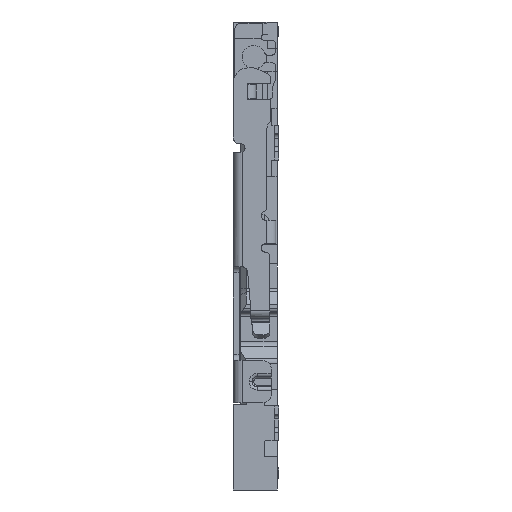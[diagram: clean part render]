
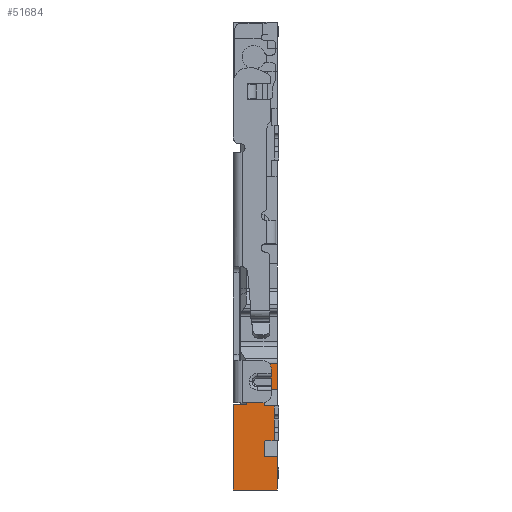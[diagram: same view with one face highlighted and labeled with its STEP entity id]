
A CAD part, left-side view. The second image highlights one B-rep face of the part: STEP entity #51684.
In plain terms, the highlighted planar face has unit normal (-1, 0, 0).
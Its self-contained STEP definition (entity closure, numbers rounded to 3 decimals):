
#44937=DIRECTION('',(0.,0.,-1.));
#44938=VECTOR('',#44937,0.913);
#44939=CARTESIAN_POINT('',(-19.907,-0.05,-8.558));
#44940=LINE('',#44939,#44938);
#45115=DIRECTION('',(0.,0.,-1.));
#45116=VECTOR('',#45115,1.128);
#45117=CARTESIAN_POINT('',(-19.907,-0.05,-11.771));
#45118=LINE('',#45117,#45116);
#45555=DIRECTION('',(0.,-1.,0.));
#45556=VECTOR('',#45555,0.45);
#45557=CARTESIAN_POINT('',(-19.907,0.4,-9.471));
#45558=LINE('',#45557,#45556);
#45559=CARTESIAN_POINT('',(-19.907,0.35,-9.971));
#45560=DIRECTION('',(1.,0.,0.));
#45561=DIRECTION('',(0.,0.,-1.));
#45562=AXIS2_PLACEMENT_3D('',#45559,#45560,#45561);
#45564=DIRECTION('',(0.,1.,0.));
#45565=VECTOR('',#45564,0.3);
#45566=CARTESIAN_POINT('',(-19.907,0.05,-10.021));
#45567=LINE('',#45566,#45565);
#45568=DIRECTION('',(0.,0.,1.));
#45569=VECTOR('',#45568,1.2);
#45570=CARTESIAN_POINT('',(-19.907,0.05,-11.221));
#45571=LINE('',#45570,#45569);
#45572=CARTESIAN_POINT('',(-19.907,0.35,-11.271));
#45573=DIRECTION('',(1.,0.,0.));
#45574=DIRECTION('',(0.,1.,0.));
#45575=AXIS2_PLACEMENT_3D('',#45572,#45573,#45574);
#45577=DIRECTION('',(0.,1.,0.));
#45578=VECTOR('',#45577,0.45);
#45579=CARTESIAN_POINT('',(-19.907,-0.05,-11.771));
#45580=LINE('',#45579,#45578);
#45581=DIRECTION('',(0.,-1.,0.));
#45582=VECTOR('',#45581,1.5);
#45583=CARTESIAN_POINT('',(-19.907,1.45,-12.899));
#45584=LINE('',#45583,#45582);
#45585=DIRECTION('',(0.,0.,-1.));
#45586=VECTOR('',#45585,2.928);
#45587=CARTESIAN_POINT('',(-19.907,1.45,-9.971));
#45588=LINE('',#45587,#45586);
#45589=DIRECTION('',(0.,1.,0.));
#45590=VECTOR('',#45589,0.45);
#45591=CARTESIAN_POINT('',(-19.907,1.,-9.971));
#45592=LINE('',#45591,#45590);
#45593=DIRECTION('',(0.,0.,-1.));
#45594=VECTOR('',#45593,1.413);
#45595=CARTESIAN_POINT('',(-19.907,1.,-8.558));
#45596=LINE('',#45595,#45594);
#45601=DIRECTION('',(0.,-1.,0.));
#45602=VECTOR('',#45601,1.05);
#45603=CARTESIAN_POINT('',(-19.907,1.,-8.558));
#45604=LINE('',#45603,#45602);
#48941=DIRECTION('',(0.,0.,-1.));
#48942=VECTOR('',#48941,0.5);
#48943=CARTESIAN_POINT('',(-19.907,0.4,-11.271));
#48944=LINE('',#48943,#48942);
#48945=DIRECTION('',(0.,0.,-1.));
#48946=VECTOR('',#48945,0.5);
#48947=CARTESIAN_POINT('',(-19.907,0.4,-9.471));
#48948=LINE('',#48947,#48946);
#48961=DIRECTION('',(0.,1.,0.));
#48962=VECTOR('',#48961,0.3);
#48963=CARTESIAN_POINT('',(-19.907,0.05,-11.221));
#48964=LINE('',#48963,#48962);
#49657=CARTESIAN_POINT('',(-19.907,1.45,-9.971));
#49658=VERTEX_POINT('',#49657);
#49659=CARTESIAN_POINT('',(-19.907,1.45,-12.899));
#49660=VERTEX_POINT('',#49659);
#49670=CARTESIAN_POINT('',(-19.907,-0.05,-8.558));
#49672=VERTEX_POINT('',#49670);
#49673=CARTESIAN_POINT('',(-19.907,1.,-8.558));
#49674=VERTEX_POINT('',#49673);
#49680=CARTESIAN_POINT('',(-19.907,-0.05,-9.471));
#49681=VERTEX_POINT('',#49680);
#49682=CARTESIAN_POINT('',(-19.907,0.4,-9.471));
#49683=VERTEX_POINT('',#49682);
#49684=CARTESIAN_POINT('',(-19.907,0.4,-9.971));
#49685=VERTEX_POINT('',#49684);
#49686=CARTESIAN_POINT('',(-19.907,0.35,
-10.021));
#49687=VERTEX_POINT('',#49686);
#49688=CARTESIAN_POINT('',(-19.907,0.05,-10.021));
#49689=VERTEX_POINT('',#49688);
#49690=CARTESIAN_POINT('',(-19.907,0.05,-11.221));
#49691=VERTEX_POINT('',#49690);
#49692=CARTESIAN_POINT('',(-19.907,0.35,-11.221));
#49693=VERTEX_POINT('',#49692);
#49694=CARTESIAN_POINT('',(-19.907,0.4,-11.271));
#49695=VERTEX_POINT('',#49694);
#49696=CARTESIAN_POINT('',(-19.907,0.4,-11.771));
#49697=VERTEX_POINT('',#49696);
#49698=CARTESIAN_POINT('',(-19.907,-0.05,-11.771));
#49699=VERTEX_POINT('',#49698);
#49700=CARTESIAN_POINT('',(-19.907,-0.05,-12.899));
#49701=VERTEX_POINT('',#49700);
#49702=CARTESIAN_POINT('',(-19.907,1.,-9.971));
#49703=VERTEX_POINT('',#49702);
#51649=CARTESIAN_POINT('',(-19.907,0.28,2.479));
#51650=DIRECTION('',(-1.,0.,0.));
#51651=DIRECTION('',(0.,1.,0.));
#51652=AXIS2_PLACEMENT_3D('',#51649,#51650,#51651);
#51653=PLANE('',#51652);
#51655=ORIENTED_EDGE('',*,*,#51654,.T.);
#51656=ORIENTED_EDGE('',*,*,#51231,.T.);
#51658=ORIENTED_EDGE('',*,*,#51657,.F.);
#51660=ORIENTED_EDGE('',*,*,#51659,.T.);
#51662=ORIENTED_EDGE('',*,*,#51661,.F.);
#51664=ORIENTED_EDGE('',*,*,#51663,.F.);
#51666=ORIENTED_EDGE('',*,*,#51665,.F.);
#51668=ORIENTED_EDGE('',*,*,#51667,.T.);
#51670=ORIENTED_EDGE('',*,*,#51669,.F.);
#51672=ORIENTED_EDGE('',*,*,#51671,.T.);
#51674=ORIENTED_EDGE('',*,*,#51673,.F.);
#51675=ORIENTED_EDGE('',*,*,#51354,.T.);
#51676=ORIENTED_EDGE('',*,*,#51221,.F.);
#51677=ORIENTED_EDGE('',*,*,#51195,.F.);
#51679=ORIENTED_EDGE('',*,*,#51678,.F.);
#51681=ORIENTED_EDGE('',*,*,#51680,.F.);
#51682=EDGE_LOOP('',(#51655,#51656,#51658,#51660,#51662,#51664,#51666,#51668,
#51670,#51672,#51674,#51675,#51676,#51677,#51679,#51681));
#51683=FACE_OUTER_BOUND('',#51682,.F.);
#45563=CIRCLE('',#45562,0.05);
#45576=CIRCLE('',#45575,0.05);
#51195=EDGE_CURVE('',#49658,#49660,#45588,.T.);
#51221=EDGE_CURVE('',#49660,#49701,#45584,.T.);
#51231=EDGE_CURVE('',#49672,#49681,#44940,.T.);
#51354=EDGE_CURVE('',#49699,#49701,#45118,.T.);
#51654=EDGE_CURVE('',#49674,#49672,#45604,.T.);
#51657=EDGE_CURVE('',#49683,#49681,#45558,.T.);
#51659=EDGE_CURVE('',#49683,#49685,#48948,.T.);
#51661=EDGE_CURVE('',#49687,#49685,#45563,.T.);
#51663=EDGE_CURVE('',#49689,#49687,#45567,.T.);
#51665=EDGE_CURVE('',#49691,#49689,#45571,.T.);
#51667=EDGE_CURVE('',#49691,#49693,#48964,.T.);
#51669=EDGE_CURVE('',#49695,#49693,#45576,.T.);
#51671=EDGE_CURVE('',#49695,#49697,#48944,.T.);
#51673=EDGE_CURVE('',#49699,#49697,#45580,.T.);
#51678=EDGE_CURVE('',#49703,#49658,#45592,.T.);
#51680=EDGE_CURVE('',#49674,#49703,#45596,.T.);
#51684=ADVANCED_FACE('',(#51683),#51653,.T.);
